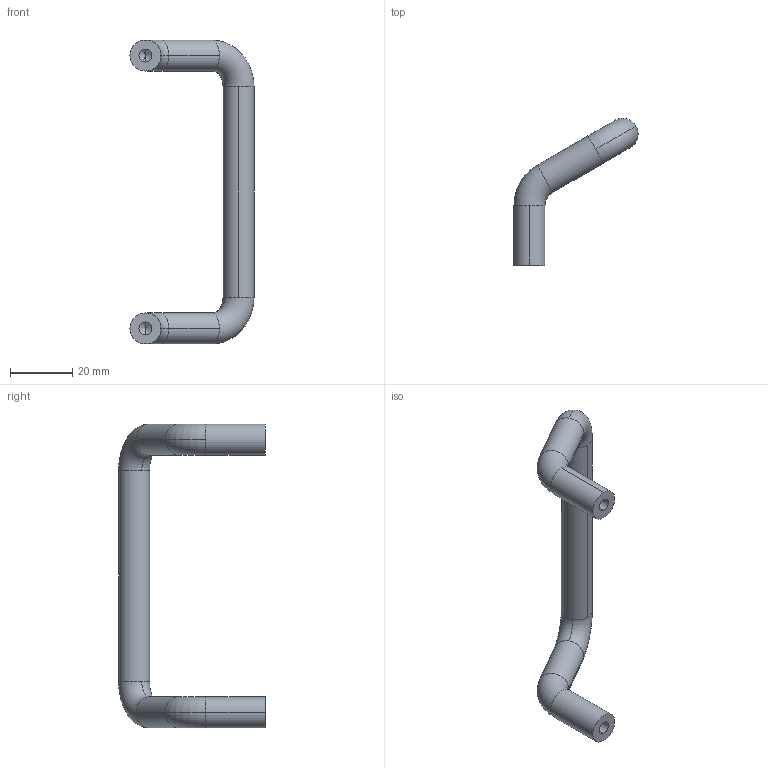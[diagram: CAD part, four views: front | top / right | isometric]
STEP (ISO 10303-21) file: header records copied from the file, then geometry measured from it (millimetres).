
FILE_DESCRIPTION (( 'STEP AP203' ), '1' );
FILE_NAME ('E07-507088.STEP', '2024-10-29T05:53:16', ( '' ), ( '' ), 'SwSTEP 2.0', 'SolidWorks 2021', '' );
FILE_SCHEMA (( 'CONFIG_CONTROL_DESIGN' ));
Length unit declared in the file: millimetre
Products named in the file (1): E07-507088
Bounding box: 40 x 47.32 x 98 mm (x, y, z)
Volume: 15065 mm3; surface area: 6679.5 mm2
Topology: 1 solids, 1 shells, 28 faces, 68 edges, 40 vertices
Faces by surface type: cylinder 14, torus 8, cone 4, plane 2
Entity records: 887 total; most frequent: DIRECTION 168, CARTESIAN_POINT 133, ORIENTED_EDGE 128, AXIS2_PLACEMENT_3D 75, EDGE_CURVE 64, CIRCLE 46, VERTEX_POINT 40, EDGE_LOOP 30
